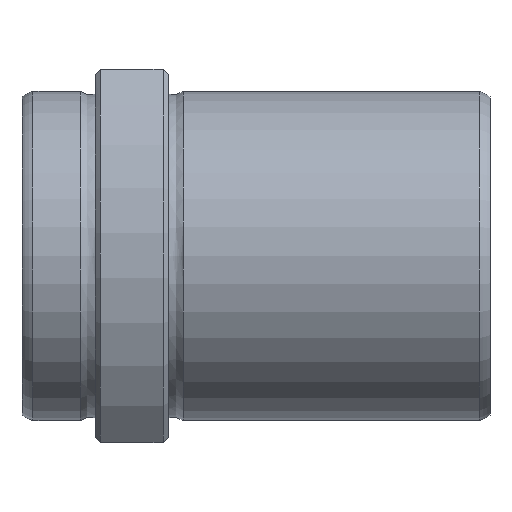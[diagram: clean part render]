
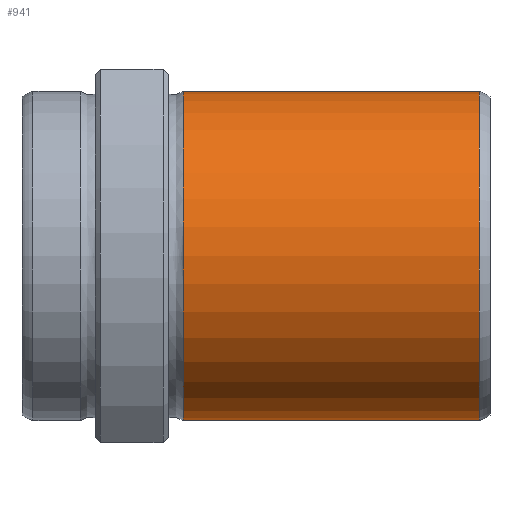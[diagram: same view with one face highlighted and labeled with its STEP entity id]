
A CAD part, top view. The second image highlights one B-rep face of the part: STEP entity #941.
In plain terms, the highlighted cylindrical face has radius 22.5 mm (diameter 45 mm), a full revolution.
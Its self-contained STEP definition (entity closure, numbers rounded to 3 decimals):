
#907=CARTESIAN_POINT('',(62.502,0.0,22.5));
#908=VERTEX_POINT('',#907);
#909=CARTESIAN_POINT('',(62.502,0.0,0.0));
#910=DIRECTION('',(-1.0,0.0,0.0));
#911=DIRECTION('',(0.0,0.0,1.0));
#912=AXIS2_PLACEMENT_3D('',#909,#910,#911);
#913=CIRCLE('',#912,22.5);
#914=EDGE_CURVE('',#908,#908,#913,.T.);
#922=CARTESIAN_POINT('',(42.262,0.0,0.0));
#923=DIRECTION('',(-1.0,0.0,0.0));
#924=DIRECTION('',(0.0,0.0,1.0));
#925=AXIS2_PLACEMENT_3D('',#922,#923,#924);
#926=CYLINDRICAL_SURFACE('',#925,22.5);
#927=CARTESIAN_POINT('',(22.023,0.0,22.5));
#928=VERTEX_POINT('',#927);
#929=CARTESIAN_POINT('',(22.023,0.0,0.0));
#930=DIRECTION('',(-1.0,0.0,0.0));
#931=DIRECTION('',(0.0,0.0,1.0));
#932=AXIS2_PLACEMENT_3D('',#929,#930,#931);
#933=CIRCLE('',#932,22.5);
#934=EDGE_CURVE('',#928,#928,#933,.T.);
#935=ORIENTED_EDGE('',*,*,#934,.F.);
#936=EDGE_LOOP('',(#935));
#937=FACE_OUTER_BOUND('',#936,.T.);
#938=ORIENTED_EDGE('',*,*,#914,.T.);
#939=EDGE_LOOP('',(#938));
#940=FACE_BOUND('',#939,.T.);
#941=ADVANCED_FACE('',(#937,#940),#926,.T.);
